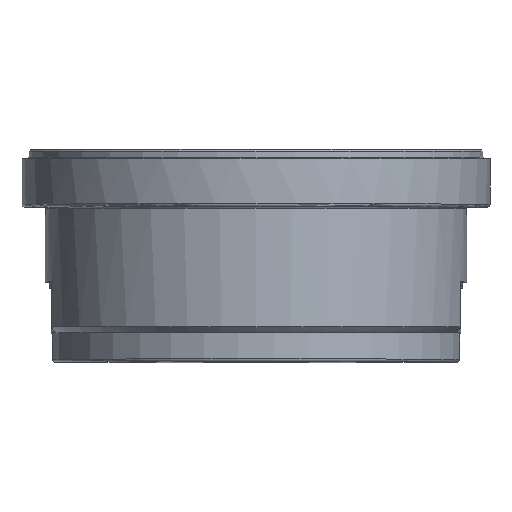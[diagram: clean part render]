
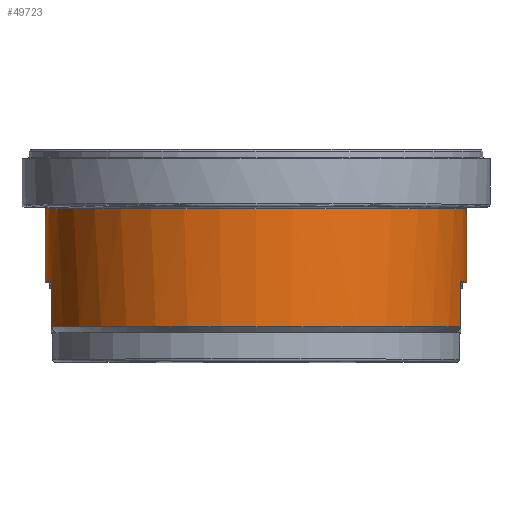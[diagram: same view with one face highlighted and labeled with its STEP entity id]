
A CAD part, top view. The second image highlights one B-rep face of the part: STEP entity #49723.
In plain terms, the highlighted cylindrical face has radius 36 mm (diameter 72 mm), a partial arc.
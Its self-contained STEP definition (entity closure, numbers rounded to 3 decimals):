
#1149 = CARTESIAN_POINT ( 'NONE',  ( 33.314, -92.269, 0. ) ) ;
#3295 = ORIENTED_EDGE ( 'NONE', *, *, #22736, .T. ) ;
#3645 = LINE ( 'NONE', #30476, #46946 ) ;
#3764 = CARTESIAN_POINT ( 'NONE',  ( 32.237, -92.269, 8.743 ) ) ;
#4363 = LINE ( 'NONE', #3764, #22717 ) ;
#5048 = DIRECTION ( 'NONE',  ( 0., 1., 0. ) ) ;
#5580 = ORIENTED_EDGE ( 'NONE', *, *, #30441, .T. ) ;
#6302 = DIRECTION ( 'NONE',  ( 0., -1., 0. ) ) ;
#6536 = CARTESIAN_POINT ( 'NONE',  ( -37.608, -7.1, 8.743 ) ) ;
#7316 = CARTESIAN_POINT ( 'NONE',  ( -38.686, -92.269, 0. ) ) ;
#11911 = AXIS2_PLACEMENT_3D ( 'NONE', #54767, #54970, #26851 ) ;
#12112 = ORIENTED_EDGE ( 'NONE', *, *, #54927, .T. ) ;
#12641 = CARTESIAN_POINT ( 'NONE',  ( -37.608, -14.8, 8.743 ) ) ;
#12997 = CARTESIAN_POINT ( 'NONE',  ( -38.686, -7.1, 0. ) ) ;
#13315 = CARTESIAN_POINT ( 'NONE',  ( 33.314, 5.4, 0. ) ) ;
#13659 = EDGE_CURVE ( 'NONE', #58247, #40278, #3645, .T. ) ;
#13765 = EDGE_CURVE ( 'NONE', #15634, #34453, #53693, .T. ) ;
#13988 = CARTESIAN_POINT ( 'NONE',  ( 32.237, -7.1, 8.743 ) ) ;
#14085 = CARTESIAN_POINT ( 'NONE',  ( -2.686, 5.4, 0. ) ) ;
#14283 = DIRECTION ( 'NONE',  ( 0., -1., 0. ) ) ;
#14398 = EDGE_LOOP ( 'NONE', ( #34231, #46452, #49398, #3295, #5580, #16610, #12112, #50806 ) ) ;
#15422 = CARTESIAN_POINT ( 'NONE',  ( 32.237, -14.8, 8.743 ) ) ;
#15634 = VERTEX_POINT ( 'NONE', #21529 ) ;
#16477 = CYLINDRICAL_SURFACE ( 'NONE', #37876, 36. ) ;
#16610 = ORIENTED_EDGE ( 'NONE', *, *, #44368, .F. ) ;
#17284 = VERTEX_POINT ( 'NONE', #50019 ) ;
#19822 = AXIS2_PLACEMENT_3D ( 'NONE', #24293, #5048, #37849 ) ;
#21529 = CARTESIAN_POINT ( 'NONE',  ( -38.686, -7.1, 0. ) ) ;
#21580 = VERTEX_POINT ( 'NONE', #15422 ) ;
#21654 = CIRCLE ( 'NONE', #11911, 36. ) ;
#21823 = DIRECTION ( 'NONE',  ( 0., 1., 0. ) ) ;
#22717 = VECTOR ( 'NONE', #21823, 1000. ) ;
#22736 = EDGE_CURVE ( 'NONE', #40278, #21580, #34027, .T. ) ;
#23521 = DIRECTION ( 'NONE',  ( 0., 0., -1. ) ) ;
#24293 = CARTESIAN_POINT ( 'NONE',  ( -2.686, -14.8, 0. ) ) ;
#24698 = DIRECTION ( 'NONE',  ( 0., 1., 0. ) ) ;
#25645 = CARTESIAN_POINT ( 'NONE',  ( -38.686, 5.4, 0. ) ) ;
#26851 = DIRECTION ( 'NONE',  ( 0., 0., -1. ) ) ;
#27655 = CIRCLE ( 'NONE', #45673, 36. ) ;
#30441 = EDGE_CURVE ( 'NONE', #21580, #54482, #4363, .T. ) ;
#30476 = CARTESIAN_POINT ( 'NONE',  ( -37.608, -92.269, 8.743 ) ) ;
#31950 = FACE_OUTER_BOUND ( 'NONE', #14398, .T. ) ;
#32686 = DIRECTION ( 'NONE',  ( 1., 0., 0. ) ) ;
#34027 = CIRCLE ( 'NONE', #19822, 36. ) ;
#34231 = ORIENTED_EDGE ( 'NONE', *, *, #13765, .F. ) ;
#34453 = VERTEX_POINT ( 'NONE', #25645 ) ;
#35570 = DIRECTION ( 'NONE',  ( 0., 1., 0. ) ) ;
#36354 = CARTESIAN_POINT ( 'NONE',  ( -38.686, -7.1, 1.472 ) ) ;
#36569 = VECTOR ( 'NONE', #24698, 1000. ) ;
#37849 = DIRECTION ( 'NONE',  ( 0., 0., -1. ) ) ;
#37876 = AXIS2_PLACEMENT_3D ( 'NONE', #60817, #51522, #32686 ) ;
#38563 = EDGE_CURVE ( 'NONE', #58247, #15634, #44245, .T. ) ;
#39227 = VERTEX_POINT ( 'NONE', #13315 ) ;
#40278 = VERTEX_POINT ( 'NONE', #12641 ) ;
#40834 = CARTESIAN_POINT ( 'NONE',  ( -37.608, -7.1, 8.743 ) ) ;
#44245 = B_SPLINE_CURVE_WITH_KNOTS ( 'NONE', 3,
 ( #40834, #59170, #55036, #49881, #36354, #12997 ),
 .UNSPECIFIED., .F., .F.,
 ( 4, 2, 4 ),
 ( 0., 0.5, 1. ),
 .UNSPECIFIED. ) ;
#44368 = EDGE_CURVE ( 'NONE', #17284, #54482, #21654, .T. ) ;
#45558 = VECTOR ( 'NONE', #35570, 1000. ) ;
#45673 = AXIS2_PLACEMENT_3D ( 'NONE', #14085, #14283, #23521 ) ;
#46452 = ORIENTED_EDGE ( 'NONE', *, *, #38563, .F. ) ;
#46946 = VECTOR ( 'NONE', #6302, 1000. ) ;
#49245 = EDGE_CURVE ( 'NONE', #39227, #34453, #27655, .T. ) ;
#49398 = ORIENTED_EDGE ( 'NONE', *, *, #13659, .T. ) ;
#49723 = ADVANCED_FACE ( 'NONE', ( #31950 ), #16477, .T. ) ;
#49881 = CARTESIAN_POINT ( 'NONE',  ( -38.595, -7.1, 2.94 ) ) ;
#50019 = CARTESIAN_POINT ( 'NONE',  ( 33.314, -7.1, 0. ) ) ;
#50806 = ORIENTED_EDGE ( 'NONE', *, *, #49245, .T. ) ;
#51522 = DIRECTION ( 'NONE',  ( 0., 1., 0. ) ) ;
#51993 = LINE ( 'NONE', #1149, #36569 ) ;
#53693 = LINE ( 'NONE', #7316, #45558 ) ;
#54482 = VERTEX_POINT ( 'NONE', #13988 ) ;
#54767 = CARTESIAN_POINT ( 'NONE',  ( -2.686, -7.1, 0. ) ) ;
#54927 = EDGE_CURVE ( 'NONE', #17284, #39227, #51993, .T. ) ;
#54970 = DIRECTION ( 'NONE',  ( 0., -1., 0. ) ) ;
#55036 = CARTESIAN_POINT ( 'NONE',  ( -38.234, -7.1, 5.869 ) ) ;
#58247 = VERTEX_POINT ( 'NONE', #6536 ) ;
#59170 = CARTESIAN_POINT ( 'NONE',  ( -37.965, -7.1, 7.315 ) ) ;
#60817 = CARTESIAN_POINT ( 'NONE',  ( -2.686, -92.269, 0. ) ) ;
